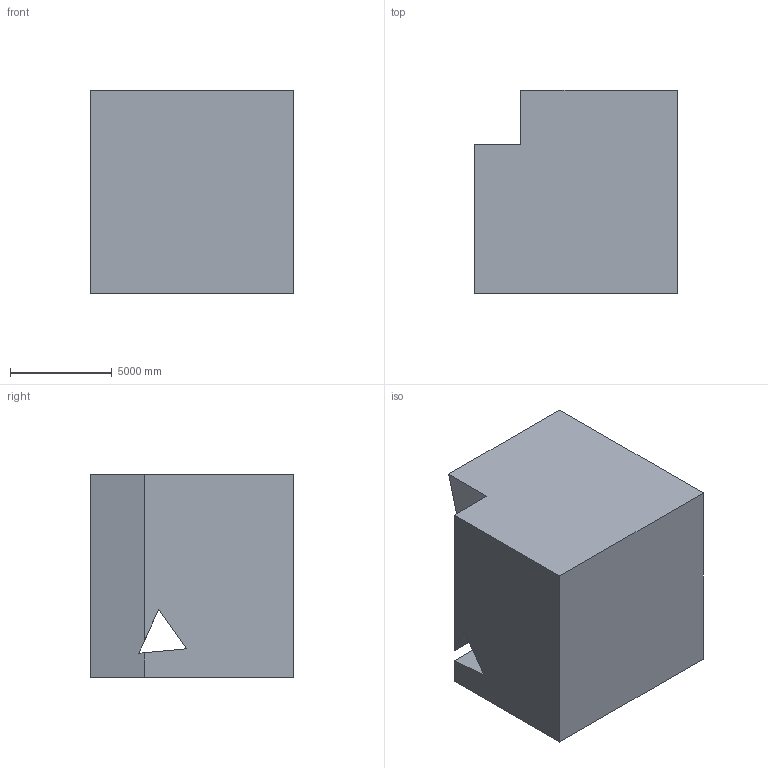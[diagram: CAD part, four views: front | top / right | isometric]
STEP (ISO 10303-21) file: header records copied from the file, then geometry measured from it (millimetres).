
FILE_DESCRIPTION (( 'STEP AP203' ), '1' );
FILE_NAME ('1261.STEP', '2022-08-18T13:26:50', ( 'user' ), ( '' ), 'SwSTEP 2.0', 'SolidWorks 2021', '' );
FILE_SCHEMA (( 'CONFIG_CONTROL_DESIGN' ));
Length unit declared in the file: centimetre
Products named in the file (1): 1261
Bounding box: 10000 x 10000 x 10000 mm (x, y, z)
Volume: 874392526624.6 mm3; surface area: 678624091.3 mm2
Topology: 1 solids, 1 shells, 17 faces, 45 edges, 30 vertices
Faces by surface type: plane 17
Entity records: 600 total; most frequent: CARTESIAN_POINT 93, ORIENTED_EDGE 90, DIRECTION 81, VECTOR 45, EDGE_CURVE 45, LINE 45, VERTEX_POINT 30, EDGE_LOOP 19
